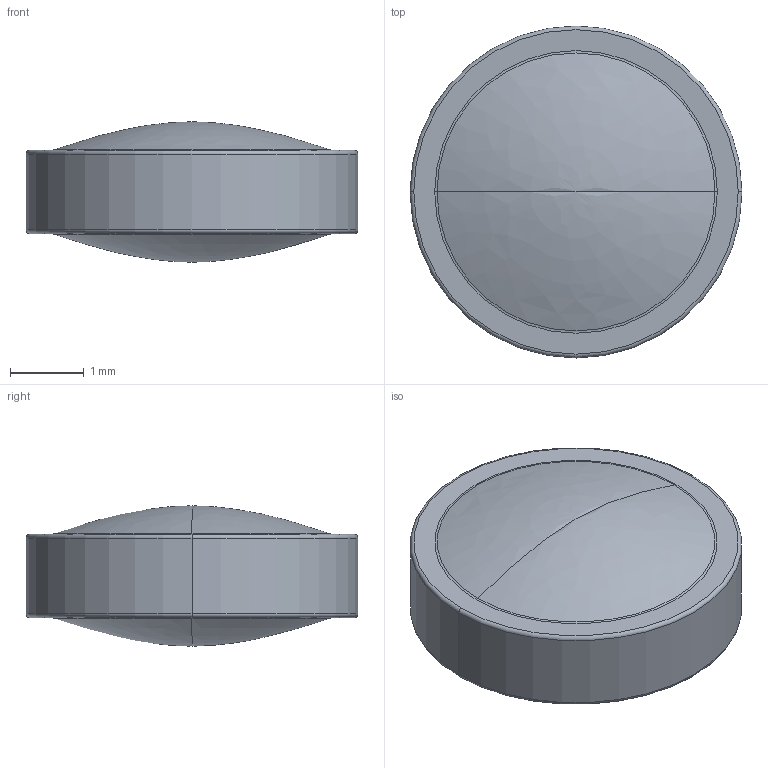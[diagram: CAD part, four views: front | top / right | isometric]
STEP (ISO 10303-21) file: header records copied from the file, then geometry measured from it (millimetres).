
FILE_DESCRIPTION((''),'2;1');
FILE_NAME('355390','2025-07-13T20:23:54',('admin'),('LIGHTPATH'),'CREO PARAMETRIC BY PTC INC, 2024063','CREO PARAMETRIC BY PTC INC, 2024063','');
FILE_SCHEMA(('CONFIG_CONTROL_DESIGN'));
Length unit declared in the file: millimetre
Products named in the file (1): 355390
Bounding box: 4.5 x 4.5 x 1.9 mm (x, y, z)
Volume: 22 mm3; surface area: 48 mm2
Topology: 1 solids, 1 shells, 16 faces, 34 edges, 18 vertices
Faces by surface type: torus 8, revolution 4, plane 2, cylinder 2
Entity records: 1378 total; most frequent: CARTESIAN_POINT 1002, DIRECTION 78, ORIENTED_EDGE 60, AXIS2_PLACEMENT_3D 36, EDGE_CURVE 30, CIRCLE 24, VERTEX_POINT 18, EDGE_LOOP 18
